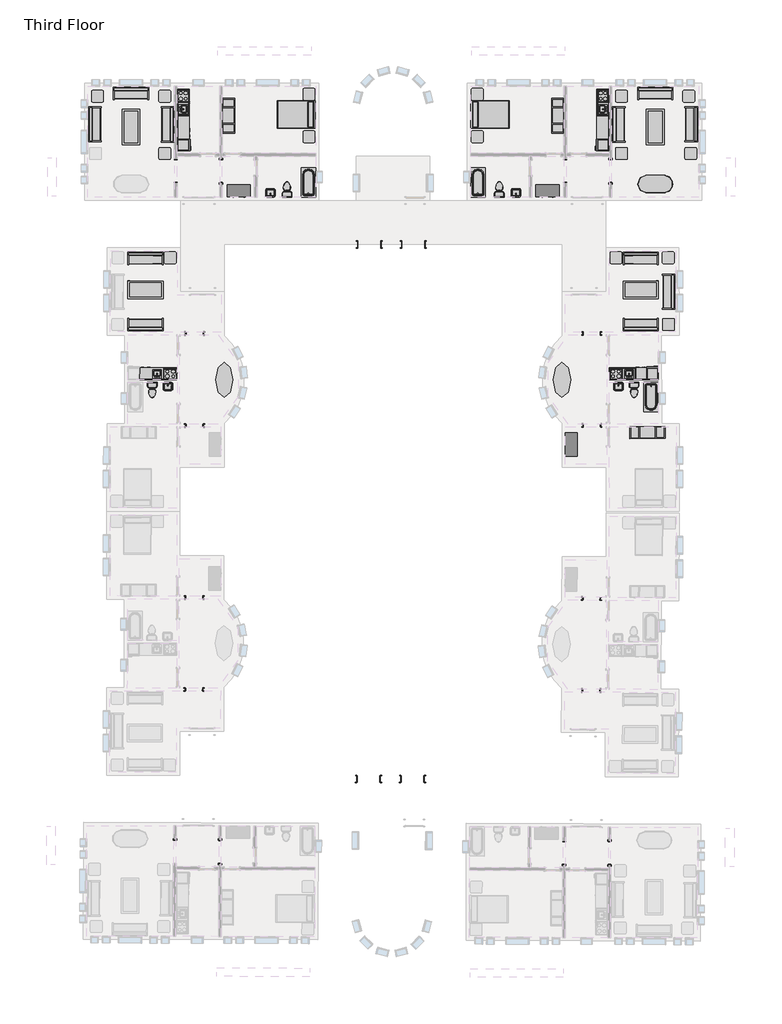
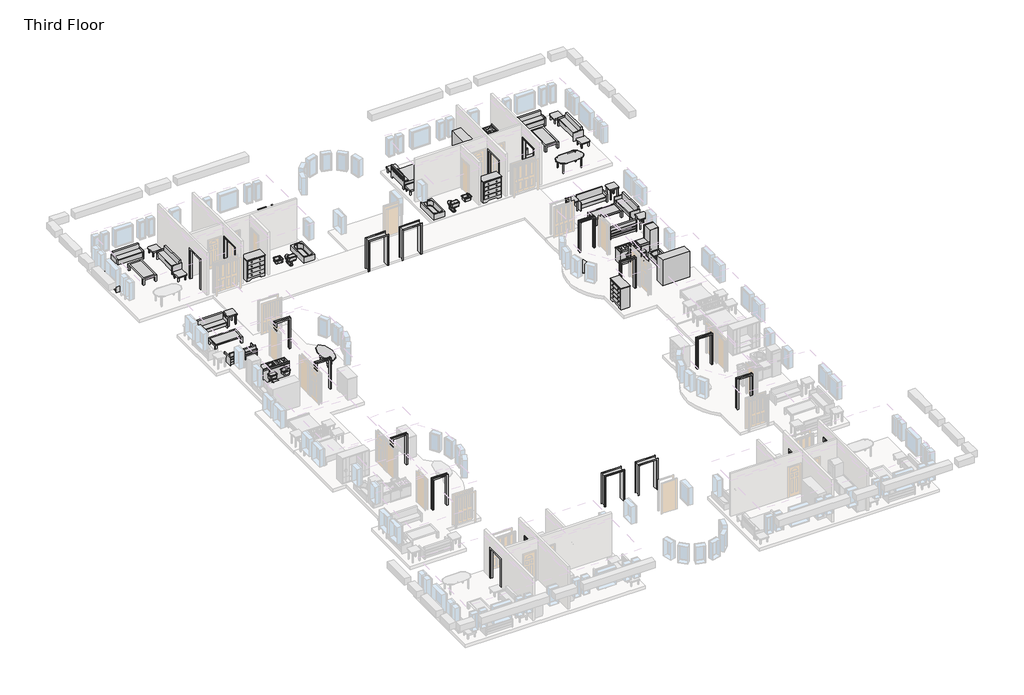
# One storey, part 5 of 5: 45 furniture elements, 35 proxies, 15 flow terminals.
"""IFC4 building model written with IfcOpenShell, lengths in millimetres."""

from ifc_helpers import new_model, si_unit, origin, place, context, project, spatial, transform, mapped, element, save
from components import m_cook_top_4_unit2_0615_x_500mm_249f3515, m_cook_top_4_unit2_0615_x_500mm_c91639ce, m_dishwasher_610_x_610_x_875mm_54ecfc4c, m_dishwasher_610_x_610_x_875mm_75336c20, m_kitchenette_medium_1372mm_e05c6bec, m_kitchenette_medium_1372mm_39f1532f, m_passage_opening_cased_0915_x_2134mm_b7ef4dee, m_passage_opening_cased_0915_x_2134mm_5e741ba8, m_passage_opening_cased_1220_x_2134mm_87a8d9c2, m_passage_opening_cased_1220_x_2134mm_f04423fa, m_passage_opening_cased_1220_x_2134mm_7296280d, m_passage_opening_cased_1220_x_2134mm_b92f2863, m_refrigerator_600_x_660mm_a466bf94, m_refrigerator_600_x_660mm_0a899b9c, m_sink_kitchen_island_450_x_450mm_f969cf2d, m_sink_kitchen_island_450_x_450mm_f6c2c534, m_sink_vanity_square_500_x_440mm_1e229b74, m_sink_vanity_square_500_x_440mm_f3cfe680, m_toilet_domestic_3d_m_toilet_domestic_3d_5cb52bd4, m_toilet_domestic_3d_m_toilet_domestic_3d_183bbd19, m_toilet_domestic_3d_m_toilet_domestic_3d_43425dfb, m_toilet_domestic_3d_m_toilet_domestic_3d_5530cc89, m_tub_rectangular_3d_m_tub_rectangular_3d_3a981ad5, m_tub_rectangular_3d_m_tub_rectangular_3d_c2020133, m_bed_shaker_1422_x_1981mm_double_096e7f55, m_bed_shaker_1422_x_1981mm_double_097b173b, m_counter_top_w_sink_hole_600mm_depth_1fb56bb9, m_counter_top_w_sink_hole_600mm_depth_08c4f679, m_counter_top_w_sink_hole_600mm_depth_60928b92, m_counter_top_w_sink_hole_600mm_depth_7e9aa94d, m_dresser_1220_x_1525_x_0610mm_18e1f140, m_dresser_1220_x_1525_x_0610mm_4e5de046, m_entertainment_center_1830_x_1830_x_0610mm_f77a9b93, m_entertainment_center_1830_x_1830_x_0610mm_4f6058a0, m_sofa_1830mm_58d08fc1, m_sofa_1830mm_3da2e71b, m_sofa1_1830mm_f9e8a66b, m_sofa1_1830mm_493d6964, m_table_coffee_0915_x_1830_x_0457mm_134cd960, m_table_coffee_0915_x_1830_x_0457mm_595c1ebd, m_table_dining_oval_0915_x_1830mm_a7cfbe21, m_table_ellipse_1800_x_900mm_fd46d5a5, m_table_ellipse_1800_x_900mm_f7269293, m_table_end_cb6ea12e, m_table_end_aa2764bc, m_table_end_0610_x_0160mm_e0e5b28f, m_table_end_0610_x_0160mm_ccef8dc9

model = new_model("IFC4")

# Units and contexts
model_context = context("Model", 3, world=origin())
ifc_project = project(units=[si_unit("LENGTHUNIT", "METRE", prefix="MILLI")], contexts=[model_context])

# Site, building, storey
site = spatial("IfcSite", under=ifc_project)
building = spatial("IfcBuilding", under=site)
storey = spatial("IfcBuildingStorey", under=building, Name="Third Floor", Elevation=6096.0)

# Proxies
placement = place(None, origin())
m_cook_top_4_unit2_0615_x_500mm_shape = m_cook_top_4_unit2_0615_x_500mm_249f3515(model_context)
element("IfcBuildingElementProxy", 1, Name="M_Cook Top-4 Unit2 : 0615 x 500mm", ObjectType="M_Cook Top-4 Unit2 : 0615 x 500mm", at=placement, inside=storey, context=model_context, shape_type="MappedRepresentation", body=[
    mapped(m_cook_top_4_unit2_0615_x_500mm_shape, transform((-8054.9916203, 1914.054661, 6096.0), x_axis=(0.0, -1.0, 0.0), y_axis=(1.0, 0.0, 0.0), z_axis=(0.0, 0.0, 1.0))),
])
element("IfcBuildingElementProxy", 2, Name="M_Cook Top-4 Unit2 : 0615 x 500mm", ObjectType="M_Cook Top-4 Unit2 : 0615 x 500mm", at=placement, inside=storey, context=model_context, shape_type="MappedRepresentation", body=[
    mapped(m_cook_top_4_unit2_0615_x_500mm_shape, transform((-30530.5448332, -12522.1734226, 6096.0), x_axis=(-0.9999989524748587, 0.0014474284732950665, 0.0), y_axis=(-0.0014474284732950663, -0.9999989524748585, 0.0), z_axis=(0.0, 0.0, 0.9999999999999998))),
])
m_cook_top_4_unit2_0615_x_500mm_2_shape = m_cook_top_4_unit2_0615_x_500mm_c91639ce(model_context)
element("IfcBuildingElementProxy", 3, Name="M_Cook Top-4 Unit2 : 0615 x 500mm", ObjectType="M_Cook Top-4 Unit2 : 0615 x 500mm", at=placement, inside=storey, context=model_context, shape_type="MappedRepresentation", body=[
    mapped(m_cook_top_4_unit2_0615_x_500mm_2_shape, transform((-7383.6384074, -12522.1734226, 6096.0), x_axis=(0.9999989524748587, 0.0014474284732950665, 0.0), y_axis=(-0.0014474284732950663, 0.9999989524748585, 0.0), z_axis=(0.0, 0.0, 0.9999999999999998))),
])
element("IfcBuildingElementProxy", 4, Name="M_Cook Top-4 Unit2 : 0615 x 500mm", ObjectType="M_Cook Top-4 Unit2 : 0615 x 500mm", at=placement, inside=storey, context=model_context, shape_type="MappedRepresentation", body=[
    mapped(m_cook_top_4_unit2_0615_x_500mm_2_shape, transform((-29859.1916203, 1914.054661, 6096.0), x_axis=(0.0, -1.0, 0.0), y_axis=(1.0, 0.0, 0.0), z_axis=(0.0, 0.0, 1.0))),
])
m_dishwasher_610_x_610_x_875mm_shape = m_dishwasher_610_x_610_x_875mm_54ecfc4c(model_context)
element("IfcBuildingElementProxy", 5, Name="M_Dishwasher : 610 x 610 x 875mm", ObjectType="M_Dishwasher : 610 x 610 x 875mm", at=placement, inside=storey, context=model_context, shape_type="MappedRepresentation", body=[
    mapped(m_dishwasher_610_x_610_x_875mm_shape, transform((-8321.6411851, 353.5721295, 6096.0), x_axis=(0.0, -1.0, 0.0), y_axis=(1.0, 0.0, 0.0), z_axis=(0.0, 0.0, 1.0))),
])
element("IfcBuildingElementProxy", 6, Name="M_Dishwasher : 610 x 610 x 875mm", ObjectType="M_Dishwasher : 610 x 610 x 875mm", at=placement, inside=storey, context=model_context, shape_type="MappedRepresentation", body=[
    mapped(m_dishwasher_610_x_610_x_875mm_shape, transform((-31445.6404496, -12254.1990417, 6096.0), x_axis=(-0.9999989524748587, 0.0014474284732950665, 0.0), y_axis=(-0.0014474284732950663, -0.9999989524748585, 0.0), z_axis=(0.0, 0.0, 0.9999999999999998))),
])
m_dishwasher_610_x_610_x_875mm_2_shape = m_dishwasher_610_x_610_x_875mm_75336c20(model_context)
element("IfcBuildingElementProxy", 7, Name="M_Dishwasher : 610 x 610 x 875mm", ObjectType="M_Dishwasher : 610 x 610 x 875mm", at=placement, inside=storey, context=model_context, shape_type="MappedRepresentation", body=[
    mapped(m_dishwasher_610_x_610_x_875mm_2_shape, transform((-6468.5427911, -12254.1990417, 6096.0), x_axis=(0.9999989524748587, 0.0014474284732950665, 0.0), y_axis=(-0.0014474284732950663, 0.9999989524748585, 0.0), z_axis=(0.0, 0.0, 0.9999999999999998))),
])
element("IfcBuildingElementProxy", 8, Name="M_Dishwasher : 610 x 610 x 875mm", ObjectType="M_Dishwasher : 610 x 610 x 875mm", at=placement, inside=storey, context=model_context, shape_type="MappedRepresentation", body=[
    mapped(m_dishwasher_610_x_610_x_875mm_2_shape, transform((-29592.5420555, 353.5721295, 6096.0), x_axis=(0.0, -1.0, 0.0), y_axis=(1.0, 0.0, 0.0), z_axis=(0.0, 0.0, 1.0))),
])
m_kitchenette_medium_1372mm_shape = m_kitchenette_medium_1372mm_e05c6bec(model_context)
element("IfcBuildingElementProxy", 9, Name="M_Kitchenette - Medium : 1372mm", ObjectType="M_Kitchenette - Medium : 1372mm", at=placement, inside=storey, context=model_context, shape_type="MappedRepresentation", body=[
    mapped(m_kitchenette_medium_1372mm_shape, transform((-7749.9916203, 1589.7923659, 6096.0), x_axis=(0.0, -1.0, 0.0), y_axis=(1.0, 0.0, 0.0), z_axis=(0.0, 0.0, 1.0))),
])
m_kitchenette_medium_1372mm_2_shape = m_kitchenette_medium_1372mm_39f1532f(model_context)
element("IfcBuildingElementProxy", 10, Name="M_Kitchenette - Medium : 1372mm", ObjectType="M_Kitchenette - Medium : 1372mm", at=placement, inside=storey, context=model_context, shape_type="MappedRepresentation", body=[
    mapped(m_kitchenette_medium_1372mm_2_shape, transform((-30164.1916203, 1589.7923659, 6096.0), x_axis=(0.0, -1.0, 0.0), y_axis=(1.0, 0.0, 0.0), z_axis=(0.0, 0.0, 1.0))),
])
element("IfcBuildingElementProxy", 11, Name="M_Kitchenette - Medium1 : 1372mm 2", ObjectType="M_Kitchenette - Medium1 : 1372mm 2", at=placement, inside=storey, context=model_context, shape_type="MappedRepresentation", body=[
    mapped(m_kitchenette_medium_1372mm_shape, transform((-30855.2482543, -12826.7037567, 6096.0), x_axis=(-0.9999989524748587, 0.0014474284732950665, 0.0), y_axis=(-0.0014474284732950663, -0.9999989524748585, 0.0), z_axis=(0.0, 0.0, 0.9999999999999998))),
])
element("IfcBuildingElementProxy", 12, Name="M_Kitchenette - Medium1 : 1372mm 2", ObjectType="M_Kitchenette - Medium1 : 1372mm 2", at=placement, inside=storey, context=model_context, shape_type="MappedRepresentation", body=[
    mapped(m_kitchenette_medium_1372mm_2_shape, transform((-7058.9349863, -12826.7037567, 6096.0), x_axis=(0.9999989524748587, 0.0014474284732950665, 0.0), y_axis=(-0.0014474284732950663, 0.9999989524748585, 0.0), z_axis=(0.0, 0.0, 0.9999999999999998))),
])
m_passage_opening_cased_0915_x_2134mm_shape = m_passage_opening_cased_0915_x_2134mm_b7ef4dee(model_context)
element("IfcBuildingElementProxy", 13, Name="M_Passage Opening-Cased : 0915 x 2134mm", ObjectType="M_Passage Opening-Cased : 0915 x 2134mm", at=placement, inside=storey, context=model_context, shape_type="MappedRepresentation", body=[
    mapped(m_passage_opening_cased_0915_x_2134mm_shape, transform((-29263.1209408, -10426.1057324, 6096.0), x_axis=(0.9999989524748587, -0.0014474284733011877, 0.0), y_axis=(0.0014474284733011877, 0.9999989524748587, 0.0), z_axis=(0.0, 0.0, 1.0))),
])
element("IfcBuildingElementProxy", 14, Name="M_Passage Opening-Cased : 0915 x 2134mm", ObjectType="M_Passage Opening-Cased : 0915 x 2134mm", at=placement, inside=storey, context=model_context, shape_type="MappedRepresentation", body=[
    mapped(m_passage_opening_cased_0915_x_2134mm_shape, transform((-29270.0280695, -15198.1007336, 6096.0), x_axis=(0.9999989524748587, -0.0014474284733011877, 0.0), y_axis=(0.0014474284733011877, 0.9999989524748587, 0.0), z_axis=(0.0, 0.0, 1.0))),
])
element("IfcBuildingElementProxy", 15, Name="M_Passage Opening-Cased : 0915 x 2134mm", ObjectType="M_Passage Opening-Cased : 0915 x 2134mm", at=placement, inside=storey, context=model_context, shape_type="MappedRepresentation", body=[
    mapped(m_passage_opening_cased_0915_x_2134mm_shape, transform((-8677.908724, -28973.7552644, 6096.0), x_axis=(-0.9999905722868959, 0.004342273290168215, 0.0), y_axis=(-0.004342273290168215, -0.9999905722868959, 0.0), z_axis=(0.0, 0.0, 1.0))),
])
element("IfcBuildingElementProxy", 16, Name="M_Passage Opening-Cased : 0915 x 2134mm", ObjectType="M_Passage Opening-Cased : 0915 x 2134mm", at=placement, inside=storey, context=model_context, shape_type="MappedRepresentation", body=[
    mapped(m_passage_opening_cased_0915_x_2134mm_shape, transform((-8657.1873959, -24201.8002534, 6096.0), x_axis=(-0.9999905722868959, 0.004342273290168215, 0.0), y_axis=(-0.004342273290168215, -0.9999905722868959, 0.0), z_axis=(0.0, 0.0, 1.0))),
])
m_passage_opening_cased_0915_x_2134mm_2_shape = m_passage_opening_cased_0915_x_2134mm_5e741ba8(model_context)
element("IfcBuildingElementProxy", 17, Name="M_Passage Opening-Cased : 0915 x 2134mm", ObjectType="M_Passage Opening-Cased : 0915 x 2134mm", at=placement, inside=storey, context=model_context, shape_type="MappedRepresentation", body=[
    mapped(m_passage_opening_cased_0915_x_2134mm_2_shape, transform((-8651.0622999, -10426.1057324, 6096.0), x_axis=(-0.9999989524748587, -0.0014474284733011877, 0.0), y_axis=(0.0014474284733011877, -0.9999989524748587, 0.0), z_axis=(0.0, 0.0, 1.0))),
])
element("IfcBuildingElementProxy", 18, Name="M_Passage Opening-Cased : 0915 x 2134mm", ObjectType="M_Passage Opening-Cased : 0915 x 2134mm", at=placement, inside=storey, context=model_context, shape_type="MappedRepresentation", body=[
    mapped(m_passage_opening_cased_0915_x_2134mm_2_shape, transform((-8644.1551712, -15198.1007336, 6096.0), x_axis=(-0.9999989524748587, -0.0014474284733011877, 0.0), y_axis=(0.0014474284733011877, -0.9999989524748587, 0.0), z_axis=(0.0, 0.0, 1.0))),
])
element("IfcBuildingElementProxy", 19, Name="M_Passage Opening-Cased : 0915 x 2134mm", ObjectType="M_Passage Opening-Cased : 0915 x 2134mm", at=placement, inside=storey, context=model_context, shape_type="MappedRepresentation", body=[
    mapped(m_passage_opening_cased_0915_x_2134mm_2_shape, transform((-29289.8809984, -28914.0863657, 6096.0), x_axis=(0.9999989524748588, -0.0014474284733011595, 0.0), y_axis=(0.0014474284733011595, 0.9999989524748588, 0.0), z_axis=(0.0, 0.0, 1.0))),
])
element("IfcBuildingElementProxy", 20, Name="M_Passage Opening-Cased : 0915 x 2134mm", ObjectType="M_Passage Opening-Cased : 0915 x 2134mm", at=placement, inside=storey, context=model_context, shape_type="MappedRepresentation", body=[
    mapped(m_passage_opening_cased_0915_x_2134mm_2_shape, transform((-29282.9738697, -24142.0913645, 6096.0), x_axis=(0.9999989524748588, -0.0014474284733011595, 0.0), y_axis=(0.0014474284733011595, 0.9999989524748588, 0.0), z_axis=(0.0, 0.0, 1.0))),
])
m_passage_opening_cased_1220_x_2134mm_shape = m_passage_opening_cased_1220_x_2134mm_87a8d9c2(model_context)
element("IfcBuildingElementProxy", 21, Name="M_Passage Opening-Cased : 1220 x 2134mm", ObjectType="M_Passage Opening-Cased : 1220 x 2134mm", at=placement, inside=storey, context=model_context, shape_type="MappedRepresentation", body=[
    mapped(m_passage_opening_cased_1220_x_2134mm_shape, transform((-7665.3416203, -1982.6925047, 6096.0), x_axis=(0.0, 1.0, 0.0), y_axis=(-1.0, 0.0, 0.0), z_axis=(0.0, 0.0, 1.0))),
])
element("IfcBuildingElementProxy", 22, Name="M_Passage Opening-Cased : 1220 x 2134mm", ObjectType="M_Passage Opening-Cased : 1220 x 2134mm", at=placement, inside=storey, context=model_context, shape_type="MappedRepresentation", body=[
    mapped(m_passage_opening_cased_1220_x_2134mm_shape, transform((-10019.0916203, -1999.0698181, 6096.0), x_axis=(0.0, -1.0, 0.0), y_axis=(1.0, 0.0, 0.0), z_axis=(0.0, 0.0, 1.0))),
])
element("IfcBuildingElementProxy", 23, Name="M_Passage Opening-Cased : 1220 x 2134mm", ObjectType="M_Passage Opening-Cased : 1220 x 2134mm", at=placement, inside=storey, context=model_context, shape_type="MappedRepresentation", body=[
    mapped(m_passage_opening_cased_1220_x_2134mm_shape, transform((-30300.0399955, -37354.6106974, 6096.0), x_axis=(-0.0028948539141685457, -0.9999958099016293, 0.0), y_axis=(0.9999958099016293, -0.0028948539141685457, 0.0), z_axis=(0.0, 0.0, 1.0))),
])
element("IfcBuildingElementProxy", 24, Name="M_Passage Opening-Cased : 1220 x 2134mm", ObjectType="M_Passage Opening-Cased : 1220 x 2134mm", at=placement, inside=storey, context=model_context, shape_type="MappedRepresentation", body=[
    mapped(m_passage_opening_cased_1220_x_2134mm_shape, transform((-27946.252448, -37345.047215, 6096.0), x_axis=(0.0028948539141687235, 0.9999958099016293, 0.0), y_axis=(-0.9999958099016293, 0.0028948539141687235, 0.0), z_axis=(0.0, 0.0, 1.0))),
])
m_passage_opening_cased_1220_x_2134mm_2_shape = m_passage_opening_cased_1220_x_2134mm_f04423fa(model_context)
element("IfcBuildingElementProxy", 25, Name="M_Passage Opening-Cased : 1220 x 2134mm", ObjectType="M_Passage Opening-Cased : 1220 x 2134mm", at=placement, inside=storey, context=model_context, shape_type="MappedRepresentation", body=[
    mapped(m_passage_opening_cased_1220_x_2134mm_2_shape, transform((-17916.280277, -5800.8811614, 6096.0), x_axis=(-1.0, 0.0, 0.0), y_axis=(0.0, -1.0, 0.0), z_axis=(0.0, 0.0, 1.0))),
])
element("IfcBuildingElementProxy", 26, Name="M_Passage Opening-Cased : 1220 x 2134mm", ObjectType="M_Passage Opening-Cased : 1220 x 2134mm", at=placement, inside=storey, context=model_context, shape_type="MappedRepresentation", body=[
    mapped(m_passage_opening_cased_1220_x_2134mm_2_shape, transform((-20185.9029636, -5800.8811614, 6096.0), x_axis=(1.0, 0.0, 0.0), y_axis=(0.0, 1.0, 0.0), z_axis=(0.0, 0.0, 1.0))),
])
m_passage_opening_cased_1220_x_2134mm_3_shape = m_passage_opening_cased_1220_x_2134mm_7296280d(model_context)
element("IfcBuildingElementProxy", 27, Name="M_Passage Opening-Cased : 1220 x 2134mm", ObjectType="M_Passage Opening-Cased : 1220 x 2134mm", at=placement, inside=storey, context=model_context, shape_type="MappedRepresentation", body=[
    mapped(m_passage_opening_cased_1220_x_2134mm_3_shape, transform((-30248.8416203, -1982.6925047, 6096.0), x_axis=(0.0, 1.0, 0.0), y_axis=(-1.0, 0.0, 0.0), z_axis=(0.0, 0.0, 1.0))),
])
element("IfcBuildingElementProxy", 28, Name="M_Passage Opening-Cased : 1220 x 2134mm", ObjectType="M_Passage Opening-Cased : 1220 x 2134mm", at=placement, inside=storey, context=model_context, shape_type="MappedRepresentation", body=[
    mapped(m_passage_opening_cased_1220_x_2134mm_3_shape, transform((-27895.0916203, -1999.0698181, 6096.0), x_axis=(0.0, -1.0, 0.0), y_axis=(1.0, 0.0, 0.0), z_axis=(0.0, 0.0, 1.0))),
])
element("IfcBuildingElementProxy", 29, Name="M_Passage Opening-Cased : 1220 x 2134mm", ObjectType="M_Passage Opening-Cased : 1220 x 2134mm", at=placement, inside=storey, context=model_context, shape_type="MappedRepresentation", body=[
    mapped(m_passage_opening_cased_1220_x_2134mm_3_shape, transform((-7716.6346226, -37419.9866307, 6096.0), x_axis=(-0.0028948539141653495, -0.9999958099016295, 0.0), y_axis=(0.9999958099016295, -0.0028948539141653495, 0.0), z_axis=(0.0, 0.0, 1.0))),
])
element("IfcBuildingElementProxy", 30, Name="M_Passage Opening-Cased : 1220 x 2134mm", ObjectType="M_Passage Opening-Cased : 1220 x 2134mm", at=placement, inside=storey, context=model_context, shape_type="MappedRepresentation", body=[
    mapped(m_passage_opening_cased_1220_x_2134mm_3_shape, transform((-10070.3273502, -37396.7956235, 6096.0), x_axis=(0.0028948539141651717, 0.9999958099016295, 0.0), y_axis=(-0.9999958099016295, 0.0028948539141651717, 0.0), z_axis=(0.0, 0.0, 1.0))),
])
m_passage_opening_cased_1220_x_2134mm_4_shape = m_passage_opening_cased_1220_x_2134mm_b92f2863(model_context)
element("IfcBuildingElementProxy", 31, Name="M_Passage Opening-Cased : 1220 x 2134mm", ObjectType="M_Passage Opening-Cased : 1220 x 2134mm", at=placement, inside=storey, context=model_context, shape_type="MappedRepresentation", body=[
    mapped(m_passage_opening_cased_1220_x_2134mm_4_shape, transform((-17956.4772285, -33572.1390027, 6096.0), x_axis=(-0.9999958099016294, 0.0028948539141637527, 0.0), y_axis=(-0.0028948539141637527, -0.9999958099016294, 0.0), z_axis=(0.0, 0.0, 1.0))),
])
element("IfcBuildingElementProxy", 32, Name="M_Passage Opening-Cased : 1220 x 2134mm", ObjectType="M_Passage Opening-Cased : 1220 x 2134mm", at=placement, inside=storey, context=model_context, shape_type="MappedRepresentation", body=[
    mapped(m_passage_opening_cased_1220_x_2134mm_4_shape, transform((-20226.0904051, -33565.5687766, 6096.0), x_axis=(0.9999958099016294, -0.0028948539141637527, 0.0), y_axis=(0.0028948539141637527, 0.9999958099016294, 0.0), z_axis=(0.0, 0.0, 1.0))),
])
m_refrigerator_600_x_660mm_shape = m_refrigerator_600_x_660mm_a466bf94(model_context)
element("IfcBuildingElementProxy", 33, Name="M_Refrigerator : 600 x 660mm", ObjectType="M_Refrigerator : 600 x 660mm", at=placement, inside=storey, context=model_context, shape_type="MappedRepresentation", body=[
    mapped(m_refrigerator_600_x_660mm_shape, transform((-8046.2067105, -687.7464817, 6096.0), x_axis=(0.0, -1.0, 0.0), y_axis=(1.0, 0.0, 0.0), z_axis=(0.0, 0.0, 1.0))),
])
m_refrigerator_600_x_660mm_2_shape = m_refrigerator_600_x_660mm_0a899b9c(model_context)
element("IfcBuildingElementProxy", 34, Name="M_Refrigerator : 600 x 660mm", ObjectType="M_Refrigerator : 600 x 660mm", at=placement, inside=storey, context=model_context, shape_type="MappedRepresentation", body=[
    mapped(m_refrigerator_600_x_660mm_2_shape, transform((-5426.8265991, -12528.1259936, 6096.0), x_axis=(0.9999989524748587, 0.0014474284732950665, 0.0), y_axis=(-0.0014474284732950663, 0.9999989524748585, 0.0), z_axis=(0.0, 0.0, 0.9999999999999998))),
])
element("IfcBuildingElementProxy", 35, Name="M_Refrigerator : 600 x 660mm", ObjectType="M_Refrigerator : 600 x 660mm", at=placement, inside=storey, context=model_context, shape_type="MappedRepresentation", body=[
    mapped(m_refrigerator_600_x_660mm_2_shape, transform((-29867.9765301, -687.7464817, 6096.0), x_axis=(0.0, -1.0, 0.0), y_axis=(1.0, 0.0, 0.0), z_axis=(0.0, 0.0, 1.0))),
])

# Flow terminals
m_sink_kitchen_island_450_x_450mm_shape = m_sink_kitchen_island_450_x_450mm_f969cf2d(model_context)
element("IfcFlowTerminal", 36, ObjectType="M_Sink Kitchen-Island : 450 x 450mm", at=placement, inside=storey, context=model_context, shape_type="MappedRepresentation", body=[
    mapped(m_sink_kitchen_island_450_x_450mm_shape, transform((-8057.3370214, 1243.7439015, 6096.0), x_axis=(0.0, -1.0, 0.0), y_axis=(1.0, 0.0, 0.0), z_axis=(0.0, 0.0, 1.0))),
])
element("IfcFlowTerminal", 37, ObjectType="M_Sink Kitchen-Island : 450 x 450mm", at=placement, inside=storey, context=model_context, shape_type="MappedRepresentation", body=[
    mapped(m_sink_kitchen_island_450_x_450mm_shape, transform((-31200.8514957, -12518.8577971, 6096.0), x_axis=(-0.9999989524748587, 0.0014474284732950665, 0.0), y_axis=(-0.0014474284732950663, -0.9999989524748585, 0.0), z_axis=(0.0, 0.0, 0.9999999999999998))),
])
m_sink_kitchen_island_450_x_450mm_2_shape = m_sink_kitchen_island_450_x_450mm_f6c2c534(model_context)
element("IfcFlowTerminal", 38, ObjectType="M_Sink Kitchen-Island : 450 x 450mm", at=placement, inside=storey, context=model_context, shape_type="MappedRepresentation", body=[
    mapped(m_sink_kitchen_island_450_x_450mm_2_shape, transform((-6713.331745, -12518.8577971, 6096.0), x_axis=(0.9999989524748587, 0.0014474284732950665, 0.0), y_axis=(-0.0014474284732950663, 0.9999989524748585, 0.0), z_axis=(0.0, 0.0, 0.9999999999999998))),
])
element("IfcFlowTerminal", 39, ObjectType="M_Sink Kitchen-Island : 450 x 450mm", at=placement, inside=storey, context=model_context, shape_type="MappedRepresentation", body=[
    mapped(m_sink_kitchen_island_450_x_450mm_2_shape, transform((-29856.8462192, 1243.7439015, 6096.0), x_axis=(0.0, -1.0, 0.0), y_axis=(1.0, 0.0, 0.0), z_axis=(0.0, 0.0, 1.0))),
])
m_sink_vanity_square_500_x_440mm_shape = m_sink_vanity_square_500_x_440mm_1e229b74(model_context)
element("IfcFlowTerminal", 40, ObjectType="M_Sink Vanity-Square : 500 x 440mm", at=placement, inside=storey, context=model_context, shape_type="MappedRepresentation", body=[
    mapped(m_sink_vanity_square_500_x_440mm_shape, transform((-12563.5523798, -3158.1107603, 6096.0), x_axis=(-1.0, 0.0, 0.0), y_axis=(0.0, -1.0, 0.0), z_axis=(0.0, 0.0, 1.0))),
])
element("IfcFlowTerminal", 41, ObjectType="M_Sink Vanity-Square : 500 x 440mm", at=placement, inside=storey, context=model_context, shape_type="MappedRepresentation", body=[
    mapped(m_sink_vanity_square_500_x_440mm_shape, transform((-30677.3455366, -13134.5069817, 6096.0), x_axis=(0.9999989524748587, -0.001447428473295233, 0.0), y_axis=(0.0014474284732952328, 0.9999989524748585, 0.0), z_axis=(0.0, 0.0, 0.9999999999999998))),
])
m_sink_vanity_square_500_x_440mm_2_shape = m_sink_vanity_square_500_x_440mm_f3cfe680(model_context)
element("IfcFlowTerminal", 42, ObjectType="M_Sink Vanity-Square : 500 x 440mm", at=placement, inside=storey, context=model_context, shape_type="MappedRepresentation", body=[
    mapped(m_sink_vanity_square_500_x_440mm_2_shape, transform((-7236.8377041, -13134.5069817, 6096.0), x_axis=(-0.9999989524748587, -0.001447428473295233, 0.0), y_axis=(0.0014474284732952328, -0.9999989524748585, 0.0), z_axis=(0.0, 0.0, 0.9999999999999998))),
])
element("IfcFlowTerminal", 43, ObjectType="M_Sink Vanity-Square : 500 x 440mm", at=placement, inside=storey, context=model_context, shape_type="MappedRepresentation", body=[
    mapped(m_sink_vanity_square_500_x_440mm_2_shape, transform((-25350.6308609, -3158.1107603, 6096.0), x_axis=(1.0, 0.0, 0.0), y_axis=(0.0, 1.0, 0.0), z_axis=(0.0, 0.0, 1.0))),
])
m_toilet_domestic_3d_m_toilet_domestic_3d_shape = m_toilet_domestic_3d_m_toilet_domestic_3d_5cb52bd4(model_context)
m_toilet_domestic_3d_m_toilet_domestic_3d_2_shape = m_toilet_domestic_3d_m_toilet_domestic_3d_183bbd19(model_context)
element("IfcFlowTerminal", 44, ObjectType="M_Toilet-Domestic-3D : M_Toilet-Domestic-3D", at=placement, inside=storey, context=model_context, shape_type="MappedRepresentation", body=[
    mapped(m_toilet_domestic_3d_m_toilet_domestic_3d_shape, transform((-13440.7376477, -2845.185134, 6096.0), x_axis=(-1.0, 0.0, 0.0), y_axis=(0.0, -1.0, 0.0), z_axis=(0.0, 0.0, 1.0))),
    mapped(m_toilet_domestic_3d_m_toilet_domestic_3d_2_shape, transform((-13440.7376477, -2845.185134, 6096.0), x_axis=(-1.0, 0.0, 0.0), y_axis=(0.0, -1.0, 0.0), z_axis=(0.0, 0.0, 1.0))),
])
m_toilet_domestic_3d_m_toilet_domestic_3d_3_shape = m_toilet_domestic_3d_m_toilet_domestic_3d_43425dfb(model_context)
m_toilet_domestic_3d_m_toilet_domestic_3d_4_shape = m_toilet_domestic_3d_m_toilet_domestic_3d_5530cc89(model_context)
element("IfcFlowTerminal", 45, ObjectType="M_Toilet-Domestic-3D : M_Toilet-Domestic-3D", at=placement, inside=storey, context=model_context, shape_type="MappedRepresentation", body=[
    mapped(m_toilet_domestic_3d_m_toilet_domestic_3d_3_shape, transform((-24473.445593, -2845.185134, 6096.0), x_axis=(1.0, 0.0, 0.0), y_axis=(0.0, 1.0, 0.0), z_axis=(0.0, 0.0, 1.0))),
    mapped(m_toilet_domestic_3d_m_toilet_domestic_3d_4_shape, transform((-24473.445593, -2845.185134, 6096.0), x_axis=(1.0, 0.0, 0.0), y_axis=(0.0, 1.0, 0.0), z_axis=(0.0, 0.0, 1.0))),
])
element("IfcFlowTerminal", 46, ObjectType="M_Toilet-Domestic-3D1 : M_Toilet-Domestic-3D", at=placement, inside=storey, context=model_context, shape_type="MappedRepresentation", body=[
    mapped(m_toilet_domestic_3d_m_toilet_domestic_3d_shape, transform((-31475.0435019, -13456.0033339, 6096.0), x_axis=(0.9999989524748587, -0.001447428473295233, 0.0), y_axis=(0.0014474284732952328, 0.9999989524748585, 0.0), z_axis=(0.0, 0.0, 0.9999999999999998))),
    mapped(m_toilet_domestic_3d_m_toilet_domestic_3d_2_shape, transform((-31475.0435019, -13456.0033339, 6096.0), x_axis=(0.9999989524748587, -0.001447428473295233, 0.0), y_axis=(0.0014474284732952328, 0.9999989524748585, 0.0), z_axis=(0.0, 0.0, 0.9999999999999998))),
])
element("IfcFlowTerminal", 47, ObjectType="M_Toilet-Domestic-3D1 : M_Toilet-Domestic-3D", at=placement, inside=storey, context=model_context, shape_type="MappedRepresentation", body=[
    mapped(m_toilet_domestic_3d_m_toilet_domestic_3d_3_shape, transform((-6439.1397387, -13456.0033339, 6096.0), x_axis=(-0.9999989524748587, -0.001447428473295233, 0.0), y_axis=(0.0014474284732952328, -0.9999989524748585, 0.0), z_axis=(0.0, 0.0, 0.9999999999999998))),
    mapped(m_toilet_domestic_3d_m_toilet_domestic_3d_4_shape, transform((-6439.1397387, -13456.0033339, 6096.0), x_axis=(-0.9999989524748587, -0.001447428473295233, 0.0), y_axis=(0.0014474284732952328, -0.9999989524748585, 0.0), z_axis=(0.0, 0.0, 0.9999999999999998))),
])
m_tub_rectangular_3d_m_tub_rectangular_3d_shape = m_tub_rectangular_3d_m_tub_rectangular_3d_3a981ad5(model_context)
element("IfcFlowTerminal", 48, ObjectType="M_Tub-Rectangular-3D : M_Tub-Rectangular-3D", at=placement, inside=storey, context=model_context, shape_type="MappedRepresentation", body=[
    mapped(m_tub_rectangular_3d_m_tub_rectangular_3d_shape, transform((-15110.3416203, -2229.2781927, 6096.0), x_axis=(0.0, 1.0, 0.0), y_axis=(-1.0, 0.0, 0.0), z_axis=(0.0, 0.0, 1.0))),
])
element("IfcFlowTerminal", 49, ObjectType="M_Tub-Rectangular-3D : M_Tub-Rectangular-3D", at=placement, inside=storey, context=model_context, shape_type="MappedRepresentation", body=[
    mapped(m_tub_rectangular_3d_m_tub_rectangular_3d_shape, transform((-5003.7957874, -14069.8333606, 6096.0), x_axis=(0.0014474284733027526, -0.9999989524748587, 0.0), y_axis=(0.9999989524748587, 0.0014474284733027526, 0.0), z_axis=(0.0, 0.0, 1.0))),
])
m_tub_rectangular_3d_m_tub_rectangular_3d_2_shape = m_tub_rectangular_3d_m_tub_rectangular_3d_c2020133(model_context)
element("IfcFlowTerminal", 50, ObjectType="M_Tub-Rectangular-3D : M_Tub-Rectangular-3D", at=placement, inside=storey, context=model_context, shape_type="MappedRepresentation", body=[
    mapped(m_tub_rectangular_3d_m_tub_rectangular_3d_2_shape, transform((-22803.8416203, -2229.2781927, 6096.0), x_axis=(0.0, 1.0, 0.0), y_axis=(-1.0, 0.0, 0.0), z_axis=(0.0, 0.0, 1.0))),
])

# Furniture
m_bed_shaker_1422_x_1981mm_double_shape = m_bed_shaker_1422_x_1981mm_double_096e7f55(model_context)
element("IfcFurniture", 51, ObjectType="M_Bed-Shaker : 1422 x 1981mm - Double", at=placement, inside=storey, context=model_context, shape_type="MappedRepresentation", body=[
    mapped(m_bed_shaker_1422_x_1981mm_double_shape, transform((-14905.3416203, 963.9688386, 6096.0), x_axis=(0.0, 1.0, 0.0), y_axis=(-1.0, 0.0, 0.0), z_axis=(0.0, 0.0, 1.0))),
])
m_bed_shaker_1422_x_1981mm_double_2_shape = m_bed_shaker_1422_x_1981mm_double_097b173b(model_context)
element("IfcFurniture", 52, ObjectType="M_Bed-Shaker : 1422 x 1981mm - Double", at=placement, inside=storey, context=model_context, shape_type="MappedRepresentation", body=[
    mapped(m_bed_shaker_1422_x_1981mm_double_2_shape, transform((-23008.8416203, 963.9688386, 6096.0), x_axis=(0.0, 1.0, 0.0), y_axis=(-1.0, 0.0, 0.0), z_axis=(0.0, 0.0, 1.0))),
])
m_counter_top_w_sink_hole_600mm_depth_shape = m_counter_top_w_sink_hole_600mm_depth_1fb56bb9(model_context)
element("IfcFurniture", 53, ObjectType="M_Counter Top w Sink Hole : 600mm Depth", at=placement, inside=storey, context=model_context, shape_type="MappedRepresentation", body=[
    mapped(m_counter_top_w_sink_hole_600mm_depth_shape, transform((-7749.9916203, 1056.5923659, 6096.0), x_axis=(0.0, -1.0, 0.0), y_axis=(1.0, 0.0, 0.0), z_axis=(0.0, 0.0, 1.0))),
])
m_counter_top_w_sink_hole_600mm_depth_2_shape = m_counter_top_w_sink_hole_600mm_depth_08c4f679(model_context)
element("IfcFurniture", 54, ObjectType="M_Counter Top w Sink Hole : 600mm Depth", at=placement, inside=storey, context=model_context, shape_type="MappedRepresentation", body=[
    mapped(m_counter_top_w_sink_hole_600mm_depth_2_shape, transform((-31388.4476958, -12825.9319878, 6096.0), x_axis=(-0.9999989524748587, 0.0014474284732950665, 0.0), y_axis=(-0.0014474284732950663, -0.9999989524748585, 0.0), z_axis=(0.0, 0.0, 0.9999999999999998))),
])
m_counter_top_w_sink_hole_600mm_depth_3_shape = m_counter_top_w_sink_hole_600mm_depth_60928b92(model_context)
element("IfcFurniture", 55, ObjectType="M_Counter Top w Sink Hole : 600mm Depth", at=placement, inside=storey, context=model_context, shape_type="MappedRepresentation", body=[
    mapped(m_counter_top_w_sink_hole_600mm_depth_3_shape, transform((-6525.7355449, -12825.9319878, 6096.0), x_axis=(0.9999989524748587, 0.0014474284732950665, 0.0), y_axis=(-0.0014474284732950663, 0.9999989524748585, 0.0), z_axis=(0.0, 0.0, 0.9999999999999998))),
])
m_counter_top_w_sink_hole_600mm_depth_4_shape = m_counter_top_w_sink_hole_600mm_depth_7e9aa94d(model_context)
element("IfcFurniture", 56, ObjectType="M_Counter Top w Sink Hole : 600mm Depth", at=placement, inside=storey, context=model_context, shape_type="MappedRepresentation", body=[
    mapped(m_counter_top_w_sink_hole_600mm_depth_4_shape, transform((-30164.1916203, 1056.5923659, 6096.0), x_axis=(0.0, -1.0, 0.0), y_axis=(1.0, 0.0, 0.0), z_axis=(0.0, 0.0, 1.0))),
])
m_dresser_1220_x_1525_x_0610mm_shape = m_dresser_1220_x_1525_x_0610mm_18e1f140(model_context)
element("IfcFurniture", 57, ObjectType="M_Dresser : 1220 x 1525 x 0610mm", at=placement, inside=storey, context=model_context, shape_type="MappedRepresentation", body=[
    mapped(m_dresser_1220_x_1525_x_0610mm_shape, transform((-10667.6483605, -2647.7182073, 6096.0), x_axis=(1.0, 0.0, 0.0), y_axis=(0.0, 1.0, 0.0), z_axis=(0.0, 0.0, 1.0))),
])
m_dresser_1220_x_1525_x_0610mm_2_shape = m_dresser_1220_x_1525_x_0610mm_4e5de046(model_context)
element("IfcFurniture", 58, ObjectType="M_Dresser : 1220 x 1525 x 0610mm", at=placement, inside=storey, context=model_context, shape_type="MappedRepresentation", body=[
    mapped(m_dresser_1220_x_1525_x_0610mm_2_shape, transform((-9339.5667518, -15914.9147832, 6096.0), x_axis=(-0.0014474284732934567, 0.9999989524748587, 0.0), y_axis=(-0.9999989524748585, -0.0014474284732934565, 0.0), z_axis=(0.0, 0.0, 0.9999999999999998))),
])
element("IfcFurniture", 59, ObjectType="M_Dresser : 1220 x 1525 x 0610mm", at=placement, inside=storey, context=model_context, shape_type="MappedRepresentation", body=[
    mapped(m_dresser_1220_x_1525_x_0610mm_2_shape, transform((-27246.5348802, -2647.7182073, 6096.0), x_axis=(-1.0, 0.0, 0.0), y_axis=(0.0, -1.0, 0.0), z_axis=(0.0, 0.0, 1.0))),
])
m_entertainment_center_1830_x_1830_x_0610mm_shape = m_entertainment_center_1830_x_1830_x_0610mm_f77a9b93(model_context)
element("IfcFurniture", 60, ObjectType="M_Entertainment center : 1830 x 1830 x 0610mm", at=placement, inside=storey, context=model_context, shape_type="MappedRepresentation", body=[
    mapped(m_entertainment_center_1830_x_1830_x_0610mm_shape, transform((-10818.2416203, 891.1188386, 6096.0), x_axis=(0.0, 1.0, 0.0), y_axis=(-1.0, 0.0, 0.0), z_axis=(0.0, 0.0, 1.0))),
])
m_entertainment_center_1830_x_1830_x_0610mm_2_shape = m_entertainment_center_1830_x_1830_x_0610mm_4f6058a0(model_context)
element("IfcFurniture", 61, ObjectType="M_Entertainment center : 1830 x 1830 x 0610mm", at=placement, inside=storey, context=model_context, shape_type="MappedRepresentation", body=[
    mapped(m_entertainment_center_1830_x_1830_x_0610mm_2_shape, transform((-5741.0312966, -15980.2994888, 6096.0), x_axis=(0.9999989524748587, 0.0014474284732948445, 0.0), y_axis=(-0.0014474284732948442, 0.9999989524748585, 0.0), z_axis=(0.0, 0.0, 0.9999999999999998))),
])
element("IfcFurniture", 62, ObjectType="M_Entertainment center : 1830 x 1830 x 0610mm", at=placement, inside=storey, context=model_context, shape_type="MappedRepresentation", body=[
    mapped(m_entertainment_center_1830_x_1830_x_0610mm_2_shape, transform((-27095.9416203, 891.1188386, 6096.0), x_axis=(0.0, 1.0, 0.0), y_axis=(-1.0, 0.0, 0.0), z_axis=(0.0, 0.0, 1.0))),
])
m_sofa_1830mm_shape = m_sofa_1830mm_58d08fc1(model_context)
element("IfcFurniture", 63, ObjectType="M_Sofa : 1830mm", at=placement, inside=storey, context=model_context, shape_type="MappedRepresentation", body=[
    mapped(m_sofa_1830mm_shape, transform((-5413.7121121, 1899.9647403, 6096.0), x_axis=(1.0, 0.0, 0.0), y_axis=(0.0, 1.0, 0.0), z_axis=(0.0, 0.0, 1.0))),
])
element("IfcFurniture", 64, ObjectType="M_Sofa : 1830mm", at=placement, inside=storey, context=model_context, shape_type="MappedRepresentation", body=[
    mapped(m_sofa_1830mm_shape, transform((-3617.1736471, 517.2688343, 6096.0), x_axis=(0.0, -1.0, 0.0), y_axis=(1.0, 0.0, 0.0), z_axis=(0.0, 0.0, 1.0))),
])
element("IfcFurniture", 65, ObjectType="M_Sofa : 1830mm", at=placement, inside=storey, context=model_context, shape_type="MappedRepresentation", body=[
    mapped(m_sofa_1830mm_shape, transform((-7088.437522, 355.7483468, 6096.0), x_axis=(0.0, 1.0, 0.0), y_axis=(-1.0, 0.0, 0.0), z_axis=(0.0, 0.0, 1.0))),
])
m_sofa_1830mm_2_shape = m_sofa_1830mm_3da2e71b(model_context)
element("IfcFurniture", 66, ObjectType="M_Sofa : 1830mm", at=placement, inside=storey, context=model_context, shape_type="MappedRepresentation", body=[
    mapped(m_sofa_1830mm_2_shape, transform((-32500.4711285, 1899.9647403, 6096.0), x_axis=(-1.0, 0.0, 0.0), y_axis=(0.0, -1.0, 0.0), z_axis=(0.0, 0.0, 1.0))),
])
element("IfcFurniture", 67, ObjectType="M_Sofa : 1830mm", at=placement, inside=storey, context=model_context, shape_type="MappedRepresentation", body=[
    mapped(m_sofa_1830mm_2_shape, transform((-34297.0095936, 517.2688343, 6096.0), x_axis=(0.0, -1.0, 0.0), y_axis=(1.0, 0.0, 0.0), z_axis=(0.0, 0.0, 1.0))),
])
element("IfcFurniture", 68, ObjectType="M_Sofa : 1830mm", at=placement, inside=storey, context=model_context, shape_type="MappedRepresentation", body=[
    mapped(m_sofa_1830mm_2_shape, transform((-30825.7457187, 355.7483468, 6096.0), x_axis=(0.0, 1.0, 0.0), y_axis=(-1.0, 0.0, 0.0), z_axis=(0.0, 0.0, 1.0))),
])
m_sofa1_1830mm_shape = m_sofa1_1830mm_f9e8a66b(model_context)
element("IfcFurniture", 69, ObjectType="M_Sofa1 : 1830mm", at=placement, inside=storey, context=model_context, shape_type="MappedRepresentation", body=[
    mapped(m_sofa1_1830mm_shape, transform((-31753.247914, -9808.5967065, 6096.0), x_axis=(-0.9999989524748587, 0.0014474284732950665, 0.0), y_axis=(-0.0014474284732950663, -0.9999989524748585, 0.0), z_axis=(0.0, 0.0, 0.9999999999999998))),
])
element("IfcFurniture", 70, ObjectType="M_Sofa1 : 1830mm", at=placement, inside=storey, context=model_context, shape_type="MappedRepresentation", body=[
    mapped(m_sofa1_1830mm_shape, transform((-31889.4482513, -6671.4544767, 6096.0), x_axis=(0.9999989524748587, -0.001447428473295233, 0.0), y_axis=(0.0014474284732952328, 0.9999989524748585, 0.0), z_axis=(0.0, 0.0, 0.9999999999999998))),
])
m_sofa1_1830mm_2_shape = m_sofa1_1830mm_493d6964(model_context)
element("IfcFurniture", 71, ObjectType="M_Sofa1 : 1830mm", at=placement, inside=storey, context=model_context, shape_type="MappedRepresentation", body=[
    mapped(m_sofa1_1830mm_2_shape, transform((-4803.866496, -8323.9054813, 6096.0), x_axis=(-0.0014474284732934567, 0.9999989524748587, 0.0), y_axis=(-0.9999989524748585, -0.0014474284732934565, 0.0), z_axis=(0.0, 0.0, 0.9999999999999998))),
])
element("IfcFurniture", 72, ObjectType="M_Sofa1 : 1830mm", at=placement, inside=storey, context=model_context, shape_type="MappedRepresentation", body=[
    mapped(m_sofa1_1830mm_2_shape, transform((-6160.9353266, -9808.5967065, 6096.0), x_axis=(0.9999989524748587, 0.0014474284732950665, 0.0), y_axis=(-0.0014474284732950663, 0.9999989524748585, 0.0), z_axis=(0.0, 0.0, 0.9999999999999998))),
])
element("IfcFurniture", 73, ObjectType="M_Sofa1 : 1830mm", at=placement, inside=storey, context=model_context, shape_type="MappedRepresentation", body=[
    mapped(m_sofa1_1830mm_2_shape, transform((-6024.7349893, -6671.4544767, 6096.0), x_axis=(-0.9999989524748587, -0.001447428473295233, 0.0), y_axis=(0.0014474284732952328, -0.9999989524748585, 0.0), z_axis=(0.0, 0.0, 0.9999999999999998))),
])
m_table_coffee_0915_x_1830_x_0457mm_shape = m_table_coffee_0915_x_1830_x_0457mm_134cd960(model_context)
element("IfcFurniture", 74, ObjectType="M_Table-Coffee : 0915 x 1830 x 0457mm", at=placement, inside=storey, context=model_context, shape_type="MappedRepresentation", body=[
    mapped(m_table_coffee_0915_x_1830_x_0457mm_shape, transform((-5248.1305425, 287.8530719, 6096.0), x_axis=(0.0, 1.0, 0.0), y_axis=(-1.0, 0.0, 0.0), z_axis=(0.0, 0.0, 1.0))),
])
element("IfcFurniture", 75, ObjectType="M_Table-Coffee : 0915 x 1830 x 0457mm", at=placement, inside=storey, context=model_context, shape_type="MappedRepresentation", body=[
    mapped(m_table_coffee_0915_x_1830_x_0457mm_shape, transform((-31802.8209497, -8059.4661414, 6096.0), x_axis=(-0.9999989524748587, 0.0014474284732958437, 0.0), y_axis=(-0.0014474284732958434, -0.9999989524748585, 0.0), z_axis=(0.0, 0.0, 0.9999999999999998))),
])
m_table_coffee_0915_x_1830_x_0457mm_2_shape = m_table_coffee_0915_x_1830_x_0457mm_595c1ebd(model_context)
element("IfcFurniture", 76, ObjectType="M_Table-Coffee : 0915 x 1830 x 0457mm", at=placement, inside=storey, context=model_context, shape_type="MappedRepresentation", body=[
    mapped(m_table_coffee_0915_x_1830_x_0457mm_2_shape, transform((-6111.362291, -8059.4661414, 6096.0), x_axis=(0.9999989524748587, 0.0014474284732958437, 0.0), y_axis=(-0.0014474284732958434, 0.9999989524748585, 0.0), z_axis=(0.0, 0.0, 0.9999999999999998))),
])
element("IfcFurniture", 77, ObjectType="M_Table-Coffee : 0915 x 1830 x 0457mm", at=placement, inside=storey, context=model_context, shape_type="MappedRepresentation", body=[
    mapped(m_table_coffee_0915_x_1830_x_0457mm_2_shape, transform((-32666.0526981, 287.8530719, 6096.0), x_axis=(0.0, 1.0, 0.0), y_axis=(-1.0, 0.0, 0.0), z_axis=(0.0, 0.0, 1.0))),
])
m_table_dining_oval_0915_x_1830mm_shape = m_table_dining_oval_0915_x_1830mm_a7cfbe21(model_context)
element("IfcFurniture", 78, ObjectType="M_Table-Dining Oval : 0915 x 1830mm", at=placement, inside=storey, context=model_context, shape_type="MappedRepresentation", body=[
    mapped(m_table_dining_oval_0915_x_1830mm_shape, transform((-4941.5219482, -2305.2828007, 6096.0), x_axis=(1.0, 0.0, 0.0), y_axis=(0.0, 1.0, 0.0), z_axis=(0.0, 0.0, 1.0))),
])
m_table_ellipse_1800_x_900mm_shape = m_table_ellipse_1800_x_900mm_fd46d5a5(model_context)
element("IfcFurniture", 79, ObjectType="M_Table-Ellipse : 1800 x 900mm", at=placement, inside=storey, context=model_context, shape_type="MappedRepresentation", body=[
    mapped(m_table_ellipse_1800_x_900mm_shape, transform((-27726.9892362, -12831.2316926, 6096.0), x_axis=(0.0014474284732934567, 0.9999989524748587, 0.0), y_axis=(-0.9999989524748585, 0.0014474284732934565, 0.0), z_axis=(0.0, 0.0, 0.9999999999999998))),
])
m_table_ellipse_1800_x_900mm_2_shape = m_table_ellipse_1800_x_900mm_f7269293(model_context)
element("IfcFurniture", 80, ObjectType="M_Table-Ellipse : 1800 x 900mm", at=placement, inside=storey, context=model_context, shape_type="MappedRepresentation", body=[
    mapped(m_table_ellipse_1800_x_900mm_2_shape, transform((-10187.1940045, -12831.2316926, 6096.0), x_axis=(-0.0014474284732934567, 0.9999989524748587, 0.0), y_axis=(-0.9999989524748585, -0.0014474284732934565, 0.0), z_axis=(0.0, 0.0, 0.9999999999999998))),
])
m_table_end_shape = m_table_end_cb6ea12e(model_context)
element("IfcFurniture", 81, ObjectType="M_Table-End : 0610 x 0160mm altered height", at=placement, inside=storey, context=model_context, shape_type="MappedRepresentation", body=[
    mapped(m_table_end_shape, transform((-7407.0752506, 1748.7188386, 6096.0), x_axis=(1.0, 0.0, 0.0), y_axis=(0.0, 1.0, 0.0), z_axis=(0.0, 0.0, 1.0))),
])
element("IfcFurniture", 82, ObjectType="M_Table-End : 0610 x 0160mm altered height", at=placement, inside=storey, context=model_context, shape_type="MappedRepresentation", body=[
    mapped(m_table_end_shape, transform((-3907.0752506, 1748.7188386, 6096.0), x_axis=(1.0, 0.0, 0.0), y_axis=(0.0, 1.0, 0.0), z_axis=(0.0, 0.0, 1.0))),
])
element("IfcFurniture", 83, ObjectType="M_Table-End : 0610 x 0160mm altered height", at=placement, inside=storey, context=model_context, shape_type="MappedRepresentation", body=[
    mapped(m_table_end_shape, transform((-3807.0752506, -1222.7811614, 6096.0), x_axis=(1.0, 0.0, 0.0), y_axis=(0.0, 1.0, 0.0), z_axis=(0.0, 0.0, 1.0))),
])
element("IfcFurniture", 84, ObjectType="M_Table-End : 0610 x 0160mm altered height", at=placement, inside=storey, context=model_context, shape_type="MappedRepresentation", body=[
    mapped(m_table_end_shape, transform((-7407.0752506, -1222.7811614, 6096.0), x_axis=(1.0, 0.0, 0.0), y_axis=(0.0, 1.0, 0.0), z_axis=(0.0, 0.0, 1.0))),
])
element("IfcFurniture", 85, ObjectType="M_Table-End : 0610 x 0160mm altered height", at=placement, inside=storey, context=model_context, shape_type="MappedRepresentation", body=[
    mapped(m_table_end_shape, transform((-14899.0752506, -351.2811614, 6096.0), x_axis=(1.0, 0.0, 0.0), y_axis=(0.0, 1.0, 0.0), z_axis=(0.0, 0.0, 1.0))),
])
element("IfcFurniture", 86, ObjectType="M_Table-End : 0610 x 0160mm altered height", at=placement, inside=storey, context=model_context, shape_type="MappedRepresentation", body=[
    mapped(m_table_end_shape, transform((-14899.0752506, 1848.7188386, 6096.0), x_axis=(1.0, 0.0, 0.0), y_axis=(0.0, 1.0, 0.0), z_axis=(0.0, 0.0, 1.0))),
])
m_table_end_2_shape = m_table_end_aa2764bc(model_context)
element("IfcFurniture", 87, ObjectType="M_Table-End : 0610 x 0160mm altered height", at=placement, inside=storey, context=model_context, shape_type="MappedRepresentation", body=[
    mapped(m_table_end_2_shape, transform((-30507.10799, 1748.7188386, 6096.0), x_axis=(-1.0, 0.0, 0.0), y_axis=(0.0, -1.0, 0.0), z_axis=(0.0, 0.0, 1.0))),
])
element("IfcFurniture", 88, ObjectType="M_Table-End : 0610 x 0160mm altered height", at=placement, inside=storey, context=model_context, shape_type="MappedRepresentation", body=[
    mapped(m_table_end_2_shape, transform((-34007.10799, 1748.7188386, 6096.0), x_axis=(-1.0, 0.0, 0.0), y_axis=(0.0, -1.0, 0.0), z_axis=(0.0, 0.0, 1.0))),
])
element("IfcFurniture", 89, ObjectType="M_Table-End : 0610 x 0160mm altered height", at=placement, inside=storey, context=model_context, shape_type="MappedRepresentation", body=[
    mapped(m_table_end_2_shape, transform((-30507.10799, -1222.7811614, 6096.0), x_axis=(-1.0, 0.0, 0.0), y_axis=(0.0, -1.0, 0.0), z_axis=(0.0, 0.0, 1.0))),
])
element("IfcFurniture", 90, ObjectType="M_Table-End : 0610 x 0160mm altered height", at=placement, inside=storey, context=model_context, shape_type="MappedRepresentation", body=[
    mapped(m_table_end_2_shape, transform((-23015.10799, -351.2811614, 6096.0), x_axis=(-1.0, 0.0, 0.0), y_axis=(0.0, -1.0, 0.0), z_axis=(0.0, 0.0, 1.0))),
])
element("IfcFurniture", 91, ObjectType="M_Table-End : 0610 x 0160mm altered height", at=placement, inside=storey, context=model_context, shape_type="MappedRepresentation", body=[
    mapped(m_table_end_2_shape, transform((-23015.10799, 1848.7188386, 6096.0), x_axis=(-1.0, 0.0, 0.0), y_axis=(0.0, -1.0, 0.0), z_axis=(0.0, 0.0, 1.0))),
])
m_table_end_0610_x_0160mm_shape = m_table_end_0610_x_0160mm_e0e5b28f(model_context)
element("IfcFurniture", 92, ObjectType="M_Table-End : 0610 x 0160mm", at=placement, inside=storey, context=model_context, shape_type="MappedRepresentation", body=[
    mapped(m_table_end_0610_x_0160mm_shape, transform((-30381.8640012, -6801.216265, 6096.0), x_axis=(0.0014474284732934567, 0.9999989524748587, 0.0), y_axis=(-0.9999989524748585, 0.0014474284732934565, 0.0), z_axis=(0.0, 0.0, 0.9999999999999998))),
])
m_table_end_0610_x_0160mm_2_shape = m_table_end_0610_x_0160mm_ccef8dc9(model_context)
element("IfcFurniture", 93, ObjectType="M_Table-End : 0610 x 0160mm", at=placement, inside=storey, context=model_context, shape_type="MappedRepresentation", body=[
    mapped(m_table_end_0610_x_0160mm_2_shape, transform((-4807.2995119, -10267.2756246, 6096.0), x_axis=(-0.0014474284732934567, 0.9999989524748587, 0.0), y_axis=(-0.9999989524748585, -0.0014474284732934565, 0.0), z_axis=(0.0, 0.0, 0.9999999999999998))),
])
element("IfcFurniture", 94, ObjectType="M_Table-End : 0610 x 0160mm", at=placement, inside=storey, context=model_context, shape_type="MappedRepresentation", body=[
    mapped(m_table_end_0610_x_0160mm_2_shape, transform((-4812.3220887, -6797.2792595, 6096.0), x_axis=(-0.0014474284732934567, 0.9999989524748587, 0.0), y_axis=(-0.9999989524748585, -0.0014474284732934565, 0.0), z_axis=(0.0, 0.0, 0.9999999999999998))),
])
element("IfcFurniture", 95, ObjectType="M_Table-End : 0610 x 0160mm", at=placement, inside=storey, context=model_context, shape_type="MappedRepresentation", body=[
    mapped(m_table_end_0610_x_0160mm_2_shape, transform((-7532.3192395, -6801.216265, 6096.0), x_axis=(-0.0014474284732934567, 0.9999989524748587, 0.0), y_axis=(-0.9999989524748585, -0.0014474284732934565, 0.0), z_axis=(0.0, 0.0, 0.9999999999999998))),
])

save(model, "model.ifc")
